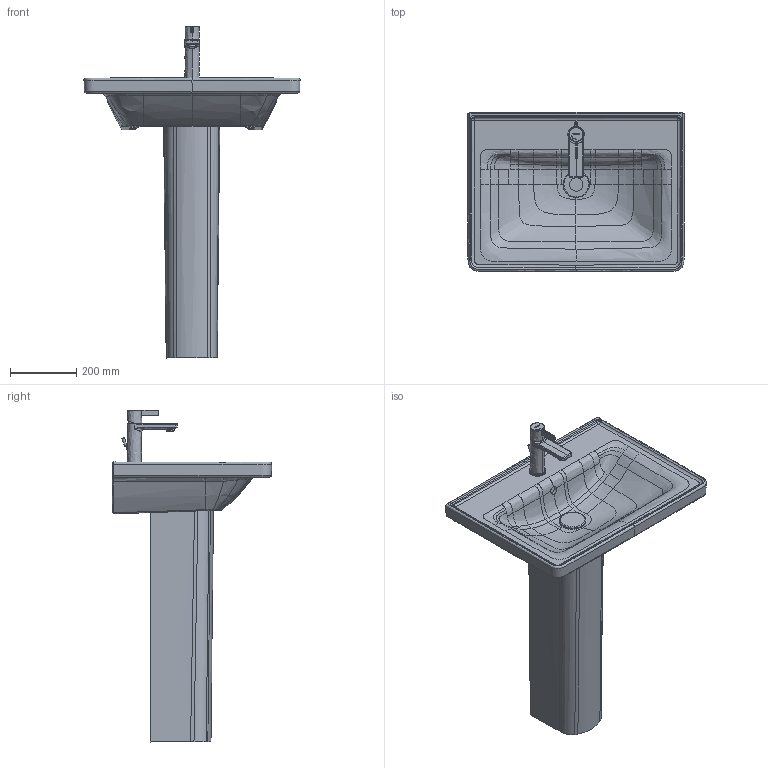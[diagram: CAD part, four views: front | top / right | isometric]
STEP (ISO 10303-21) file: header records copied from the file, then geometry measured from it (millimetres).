
FILE_DESCRIPTION(/* description */ (''),/* implementation_level */ '2;1');
FILE_NAME(/* name */ '236765_085842',/* time_stamp */ '2021-06-21T10:21:35+02:00',/* author */ (''),/* organization */ (''),/* preprocessor_version */ 'ST-DEVELOPER v15',/* originating_system */ '',/* authorisation */ '');
FILE_SCHEMA (('AUTOMOTIVE_DESIGN'));
Length unit declared in the file: millimetre
Products named in the file (1): Document
Bounding box: 650.17 x 480.08 x 999.28 mm (x, y, z)
Volume: 22641329.5 mm3; surface area: 1812649.4 mm2
Topology: 5 solids, 10 shells, 636 faces, 1541 edges, 938 vertices
Faces by surface type: bspline 492, plane 144
Entity records: 89951 total; most frequent: CARTESIAN_POINT 80331, ORIENTED_EDGE 3056, EDGE_CURVE 1535, B_SPLINE_CURVE_WITH_KNOTS 1273, VERTEX_POINT 938, EDGE_LOOP 671, ADVANCED_FACE 636, FACE_OUTER_BOUND 636
